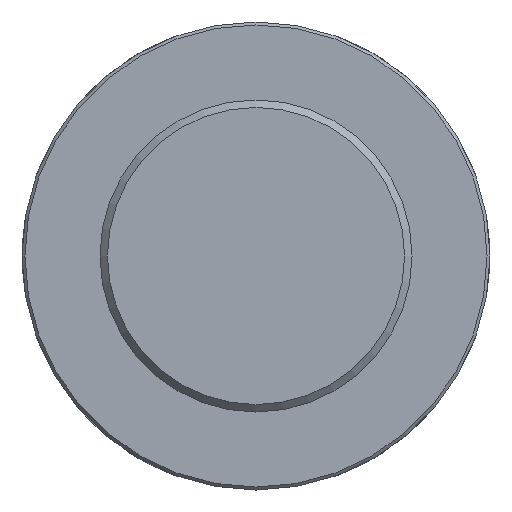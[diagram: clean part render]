
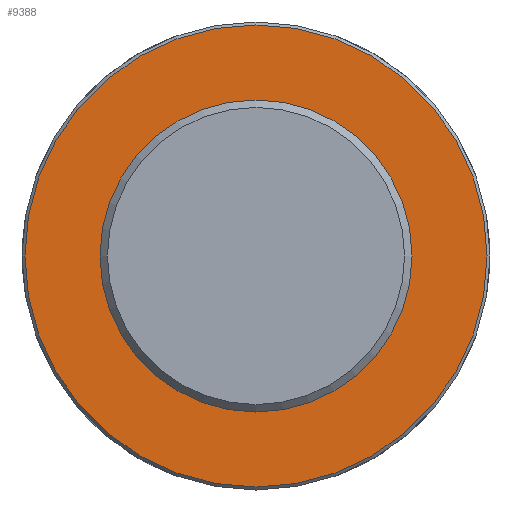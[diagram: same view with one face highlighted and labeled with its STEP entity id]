
A CAD part, front view. The second image highlights one B-rep face of the part: STEP entity #9388.
In plain terms, the highlighted planar face has unit normal (0, -1, 0) as drawn and (0, 1, 0) by its records, which use the part's own axes.
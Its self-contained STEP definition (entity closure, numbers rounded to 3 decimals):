
#73=CIRCLE('',#9721,155.5);
#376=PLANE('',#9724);
#883=FACE_OUTER_BOUND('',#1467,.T.);
#1467=EDGE_LOOP('',(#8580));
#4509=VERTEX_POINT('',#17384);
#5870=EDGE_CURVE('',#4509,#4509,#73,.T.);
#8580=ORIENTED_EDGE('',*,*,#5870,.F.);
#9388=ADVANCED_FACE('',(#883),#376,.T.);
#9721=AXIS2_PLACEMENT_3D('',#17385,#11032,#11033);
#9724=AXIS2_PLACEMENT_3D('',#17623,#11038,#11039);
#11032=DIRECTION('center_axis',(0.,-1.,0.));
#11033=DIRECTION('ref_axis',(1.,0.,0.));
#11038=DIRECTION('center_axis',(0.,1.,0.));
#11039=DIRECTION('ref_axis',(0.,0.,1.));
#17384=CARTESIAN_POINT('',(-155.5,150.,0.));
#17385=CARTESIAN_POINT('Origin',(0.,150.,0.));
#17623=CARTESIAN_POINT('Origin',(0.,150.,0.));
